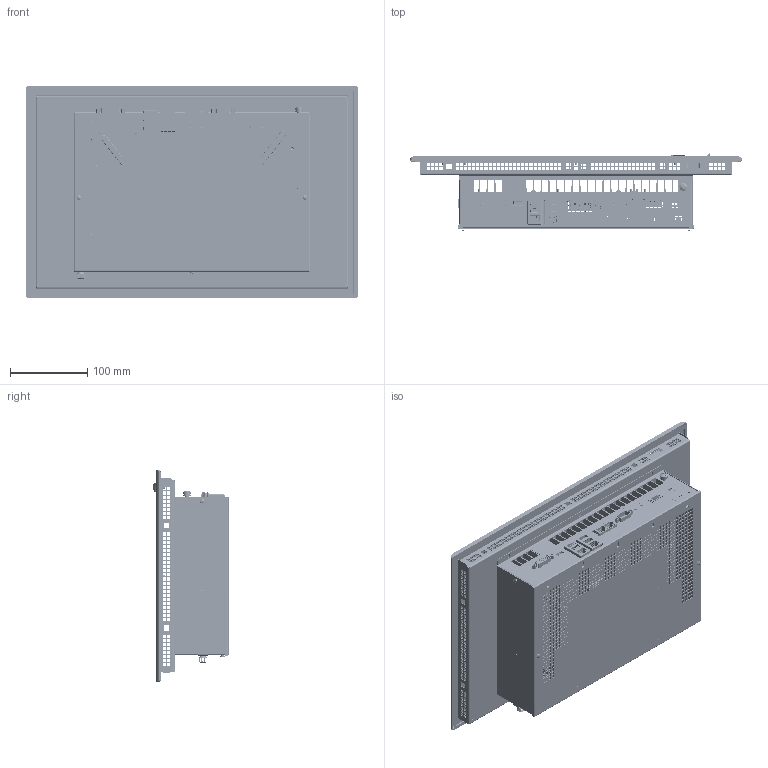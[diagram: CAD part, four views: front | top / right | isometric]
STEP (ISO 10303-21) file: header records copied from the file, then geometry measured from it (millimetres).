
FILE_DESCRIPTION((''),'2;1');
FILE_NAME('C6P34-Panel_156W_Res_S0_ASM','2019-02-01T',('rafrev'),(''),'PRO/ENGINEER BY PARAMETRIC TECHNOLOGY CORPORATION, 2013410','PRO/ENGINEER BY PARAMETRIC TECHNOLOGY CORPORATION, 2013410','');
FILE_SCHEMA(('AUTOMOTIVE_DESIGN { 1 0 10303 214 1 1 1 1 }'));
Products named in the file (1): C6P34-Panel_156W_Res_S0_ASM
Bounding box: 430 x 99.92 x 275 mm (x, y, z)
Surface area: 1153528.8 mm2 (no closed solid volume)
Topology: 0 solids, 387 shells, 7543 faces, 28490 edges, 21157 vertices
Faces by surface type: plane 6581, cylinder 549, cone 269, bspline 66, torus 55, sphere 12, extrusion 11
Entity records: 345829 total; most frequent: CARTESIAN_POINT 69896, ORIENTED_EDGE 47818, DIRECTION 45740, EDGE_CURVE 28489, VECTOR 23914, LINE 23903, VERTEX_POINT 21157, EDGE_LOOP 10944
